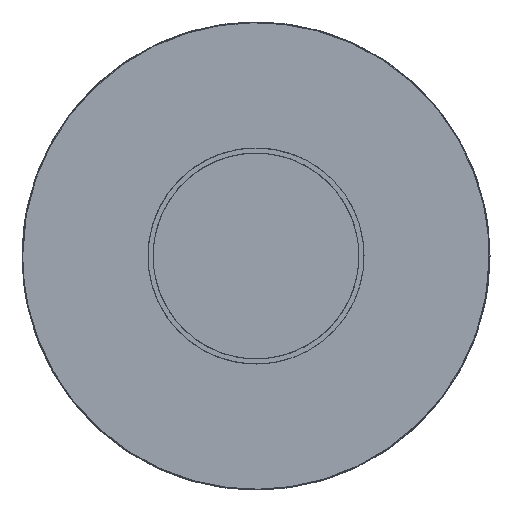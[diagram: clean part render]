
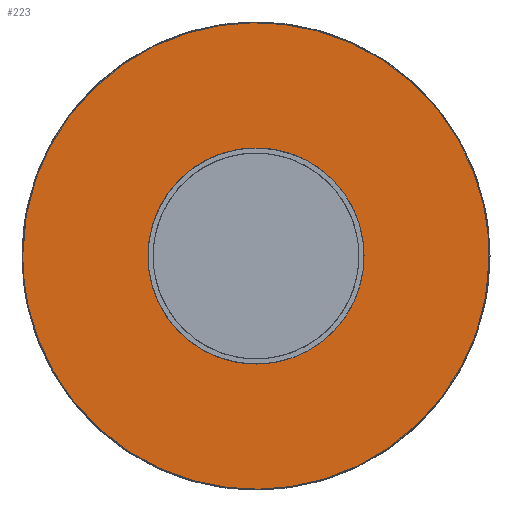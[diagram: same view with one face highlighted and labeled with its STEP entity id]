
A CAD part, front view. The second image highlights one B-rep face of the part: STEP entity #223.
In plain terms, the highlighted planar face has unit normal (0, 1, 0).
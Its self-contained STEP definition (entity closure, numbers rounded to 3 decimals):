
#17=FACE_BOUND('',#260,.T.);
#20=PLANE('',#545);
#223=ADVANCED_FACE('',(#240,#17),#20,.T.);
#240=FACE_OUTER_BOUND('',#259,.T.);
#259=EDGE_LOOP('',(#306));
#260=EDGE_LOOP('',(#307));
#306=ORIENTED_EDGE('',*,*,#362,.T.);
#307=ORIENTED_EDGE('',*,*,#363,.T.);
#362=EDGE_CURVE('',#474,#474,#400,.T.);
#363=EDGE_CURVE('',#475,#475,#401,.T.);
#400=(
BOUNDED_CURVE()
B_SPLINE_CURVE(2,(#934,#935,#936,#937,#938,#939,#940,#941,#942),
 .UNSPECIFIED.,.T.,.F.)
B_SPLINE_CURVE_WITH_KNOTS((3,2,2,2,3),(0.,1.571,3.142,
4.712,6.283),.UNSPECIFIED.)
CURVE()
GEOMETRIC_REPRESENTATION_ITEM()
RATIONAL_B_SPLINE_CURVE((1.,0.707,1.,0.707,1.,0.707,
1.,0.707,1.))
REPRESENTATION_ITEM('')
);
#401=(
BOUNDED_CURVE()
B_SPLINE_CURVE(2,(#943,#944,#945,#946,#947,#948,#949,#950,#951),
 .UNSPECIFIED.,.T.,.F.)
B_SPLINE_CURVE_WITH_KNOTS((3,2,2,2,3),(0.,1.571,3.142,
4.712,6.283),.UNSPECIFIED.)
CURVE()
GEOMETRIC_REPRESENTATION_ITEM()
RATIONAL_B_SPLINE_CURVE((1.,0.707,1.,0.707,1.,0.707,
1.,0.707,1.))
REPRESENTATION_ITEM('')
);
#474=VERTEX_POINT('',#932);
#475=VERTEX_POINT('',#933);
#545=AXIS2_PLACEMENT_3D('',#931,#556,$);
#556=DIRECTION('',(0.,1.,0.));
#931=CARTESIAN_POINT('',(327.888,342.,-327.888));
#932=CARTESIAN_POINT('',(-324.,342.,0.));
#933=CARTESIAN_POINT('',(150.,342.,0.));
#934=CARTESIAN_POINT('',(-324.,342.,0.));
#935=CARTESIAN_POINT('',(-324.,342.,324.));
#936=CARTESIAN_POINT('',(0.,342.,324.));
#937=CARTESIAN_POINT('',(324.,342.,324.));
#938=CARTESIAN_POINT('',(324.,342.,0.));
#939=CARTESIAN_POINT('',(324.,342.,-324.));
#940=CARTESIAN_POINT('',(0.,342.,-324.));
#941=CARTESIAN_POINT('',(-324.,342.,-324.));
#942=CARTESIAN_POINT('',(-324.,342.,0.));
#943=CARTESIAN_POINT('',(150.,342.,0.));
#944=CARTESIAN_POINT('',(150.,342.,150.));
#945=CARTESIAN_POINT('',(0.,342.,150.));
#946=CARTESIAN_POINT('',(-150.,342.,150.));
#947=CARTESIAN_POINT('',(-150.,342.,0.));
#948=CARTESIAN_POINT('',(-150.,342.,-150.));
#949=CARTESIAN_POINT('',(0.,342.,-150.));
#950=CARTESIAN_POINT('',(150.,342.,-150.));
#951=CARTESIAN_POINT('',(150.,342.,0.));
